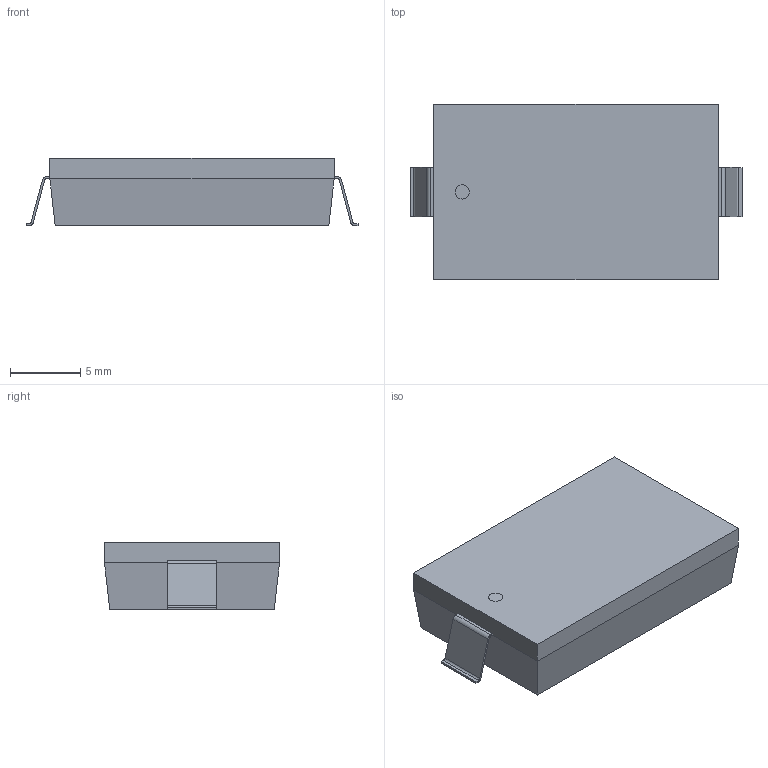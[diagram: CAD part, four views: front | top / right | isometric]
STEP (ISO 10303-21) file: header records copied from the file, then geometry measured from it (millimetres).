
FILE_DESCRIPTION(('STEP AP214'),'1');
FILE_NAME('SMT_1225-LF_RNB','2025-11-11T11:54:24',(''),(''),'','','');
FILE_SCHEMA(('AUTOMOTIVE_DESIGN'));
Length unit declared in the file: millimetre
Products named in the file (1): product
Bounding box: 23.7 x 12.5 x 4.8 mm (x, y, z)
Volume: 1180.8 mm3; surface area: 858.7 mm2
Topology: 4 solids, 4 shells, 41 faces, 95 edges, 62 vertices
Faces by surface type: plane 32, cylinder 9
Full cylindrical faces by diameter (mm): 1.015 x1
Entity records: 1273 total; most frequent: DIRECTION 198, ORIENTED_EDGE 188, CARTESIAN_POINT 115, EDGE_CURVE 94, LINE 76, VECTOR 76, VERTEX_POINT 62, AXIS2_PLACEMENT_3D 61
